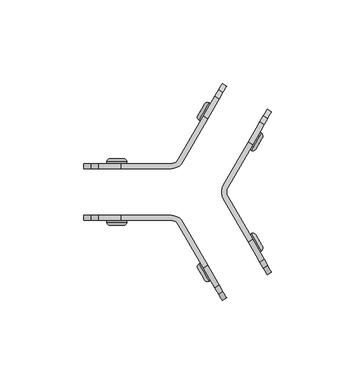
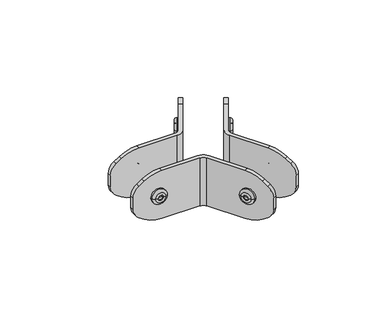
"""IFC4 building model written with IfcOpenShell, lengths in millimetres: furniture geometry, DBLTD_Sixteen3_PrivacyScreens_Artus_Bracket : 120° 3-Way Link."""

from ifc_helpers import new_model, si_unit, point, frame, origin, place, context, project, spatial, polyline, circle_curve, ellipse_curve, trimmed, source, transform, mapped, element, save
from ifc_brep_helpers import plane_surface, cylinder_surface, revolved_surface, advanced_brep


def furniture_39da6c51(model_context):
    return source(origin(), model_context, "Body", "AdvancedBrep", [
        advanced_brep(
        [(27.3537451, -795.0576652, 100.0), (26.5, -794.5647552, 100.0), (32.5, -784.1724504, 100.0), (33.3537451, -784.6653603, 100.0), (29.5, -789.3686028, 100.0), (31.2320508, -790.3686028, 100.0), (30.2320508, -792.1006536, 100.0), (32.2320508, -788.636552, 100.0), (31.0980762, -792.6006536, 100.0), (33.0980762, -789.136552, 100.0), (30.1051663, -794.3204241, 100.0), (34.0909862, -787.4167815, 100.0)],
        [
            (0, 1),
            (1, 2, circle_curve(frame((29.5, -789.3686028, 100.0), z_axis=(0.866025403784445, -0.49999999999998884, 0.0), x_axis=(0.49999999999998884, 0.866025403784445, 0.0)), 6.0)),
            (2, 3),
            (3, 0, circle_curve(frame((30.3537451, -789.8615127, 100.0), z_axis=(-0.866025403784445, 0.49999999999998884, 0.0), x_axis=(0.49999999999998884, 0.866025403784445, 0.0)), 6.0)),
            (2, 1, circle_curve(frame((29.5, -789.3686028, 100.0), z_axis=(0.866025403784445, -0.49999999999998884, 0.0), x_axis=(0.49999999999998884, 0.866025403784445, 0.0)), 6.0)),
            (0, 3, circle_curve(frame((30.3537451, -789.8615127, 100.0), z_axis=(-0.866025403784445, 0.49999999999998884, 0.0), x_axis=(0.49999999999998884, 0.866025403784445, 0.0)), 6.0)),
            (1, 4),
            (4, 2),
            (5, 6),
            (6, 7, circle_curve(frame((31.2320508, -790.3686028, 100.0), z_axis=(0.866025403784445, -0.49999999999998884, 0.0), x_axis=(0.49999999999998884, 0.866025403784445, 0.0)), 2.0)),
            (7, 5),
            (7, 6, circle_curve(frame((31.2320508, -790.3686028, 100.0), z_axis=(0.866025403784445, -0.49999999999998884, 0.0), x_axis=(0.49999999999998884, 0.866025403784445, 0.0)), 2.0)),
            (6, 8),
            (8, 9, circle_curve(frame((32.0980762, -790.8686028, 100.0), z_axis=(0.866025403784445, -0.49999999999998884, 0.0), x_axis=(0.49999999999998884, 0.866025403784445, 0.0)), 2.0)),
            (9, 7),
            (9, 8, circle_curve(frame((32.0980762, -790.8686028, 100.0), z_axis=(0.866025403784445, -0.49999999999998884, 0.0), x_axis=(0.49999999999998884, 0.866025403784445, 0.0)), 2.0)),
            (8, 10),
            (10, 11, circle_curve(frame((32.0980762, -790.8686028, 100.0), z_axis=(0.866025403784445, -0.49999999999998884, 0.0), x_axis=(0.49999999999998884, 0.866025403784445, 0.0)), 3.9858199)),
            (11, 9),
            (11, 10, circle_curve(frame((32.0980762, -790.8686028, 100.0), z_axis=(0.866025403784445, -0.49999999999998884, 0.0), x_axis=(0.49999999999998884, 0.866025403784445, 0.0)), 3.9858199)),
            (10, 0, circle_curve(frame((28.3608351, -793.313334, 100.0), z_axis=(0.0, 0.0, -1.0), x_axis=(0.4999999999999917, 0.8660254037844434, 0.0)), 2.0141801)),
            (3, 11, circle_curve(frame((32.346655, -786.4096915, 100.0), z_axis=(0.0, 0.0, -1.0), x_axis=(-0.499999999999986, -0.8660254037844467, 0.0)), 2.0141801)),
        ],
        [
            cylinder_surface(frame((30.7336307, -790.0808398, 100.0), z_axis=(0.866025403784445, -0.49999999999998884, 0.0), x_axis=(0.49999999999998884, 0.866025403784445, 0.0)), 6.0),
            plane_surface(frame((29.5, -789.3686028, 100.0), z_axis=(-0.866025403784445, 0.49999999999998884, 0.0), x_axis=(0.49999999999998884, 0.866025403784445, 0.0))),
            plane_surface(frame((31.2320508, -790.3686028, 100.0), z_axis=(0.866025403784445, -0.49999999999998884, 0.0), x_axis=(0.49999999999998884, 0.866025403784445, 0.0))),
            revolved_surface(polyline([(33.09807621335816, -789.1365519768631, 100.0), (32.23205080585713, -788.6365519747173, 100.0)]), (30.7336307, -790.0808398, 100.0), (0.866025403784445, -0.49999999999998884, 0.0)),
            plane_surface(frame((32.0980762, -790.8686028, 100.0), z_axis=(0.866025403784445, -0.49999999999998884, 0.0), x_axis=(0.49999999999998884, 0.866025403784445, 0.0))),
            revolved_surface(trimmed(ellipse_curve(frame((32.346655, -786.4096915, 100.0), z_axis=(0.0, 0.0, -1.0), x_axis=(-0.499999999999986, -0.8660254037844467, 0.0)), 2.0141801, 2.0141801), [point((33.3537451, -784.6653603, 100.0))], [point((34.0909862, -787.4167815, 100.0))], True, "CARTESIAN"), (30.7336307, -790.0808398, 100.0), (0.866025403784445, -0.49999999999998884, 0.0)),
        ],
        [
            (0, [[1, 2, 3, 4]]),
            (0, [[-3, 5, -1, 6]]),
            (1, [[7, 8, -2]]),
            (1, [[-8, -7, -5]]),
            (2, [[9, 10, 11]]),
            (2, [[-11, 12, -9]]),
            (3, [[13, 14, 15, -10]]),
            (3, [[-15, 16, -13, -12]]),
            (4, [[17, 18, 19, -14]]),
            (4, [[-19, 20, -17, -16]]),
            (5, [[21, -4, 22, -18]]),
            (5, [[-22, -6, -21, -20]]),
        ],
    ),
        advanced_brep(
        [(-2.9448637, -777.5647552, 100.0), (-3.7986088, -777.0718453, 100.0), (2.2013912, -766.6795404, 100.0), (3.0551363, -767.1724504, 100.0), (0.0551363, -772.3686028, 100.0), (-2.6769145, -773.1006536, 100.0), (-1.6769145, -771.3686028, 100.0), (-0.6769145, -769.636552, 100.0), (-3.5429399, -772.6006536, 100.0), (-1.5429399, -769.136552, 100.0), (-4.5358499, -774.3204241, 100.0), (-0.55003, -767.4167815, 100.0)],
        [
            (0, 1),
            (1, 2, circle_curve(frame((-0.7986088, -771.8756928, 100.0), z_axis=(0.8660254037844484, -0.4999999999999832, 0.0), x_axis=(0.4999999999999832, 0.8660254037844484, 0.0)), 6.0)),
            (2, 3),
            (3, 0, circle_curve(frame((0.0551363, -772.3686028, 100.0), z_axis=(-0.8660254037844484, 0.4999999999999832, 0.0), x_axis=(0.4999999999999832, 0.8660254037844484, 0.0)), 6.0)),
            (2, 1, circle_curve(frame((-0.7986088, -771.8756928, 100.0), z_axis=(0.8660254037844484, -0.4999999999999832, 0.0), x_axis=(0.4999999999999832, 0.8660254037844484, 0.0)), 6.0)),
            (0, 3, circle_curve(frame((0.0551363, -772.3686028, 100.0), z_axis=(-0.8660254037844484, 0.4999999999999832, 0.0), x_axis=(0.4999999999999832, 0.8660254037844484, 0.0)), 6.0)),
            (4, 0),
            (3, 4),
            (5, 6),
            (6, 7),
            (7, 5, circle_curve(frame((-1.6769145, -771.3686028, 100.0), z_axis=(-0.8660254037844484, 0.4999999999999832, 0.0), x_axis=(0.4999999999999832, 0.8660254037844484, 0.0)), 2.0)),
            (5, 7, circle_curve(frame((-1.6769145, -771.3686028, 100.0), z_axis=(-0.8660254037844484, 0.4999999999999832, 0.0), x_axis=(0.4999999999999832, 0.8660254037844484, 0.0)), 2.0)),
            (8, 5),
            (7, 9),
            (9, 8, circle_curve(frame((-2.5429399, -770.8686028, 100.0), z_axis=(-0.8660254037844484, 0.4999999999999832, 0.0), x_axis=(0.4999999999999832, 0.8660254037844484, 0.0)), 2.0)),
            (8, 9, circle_curve(frame((-2.5429399, -770.8686028, 100.0), z_axis=(-0.8660254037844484, 0.4999999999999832, 0.0), x_axis=(0.4999999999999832, 0.8660254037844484, 0.0)), 2.0)),
            (10, 8),
            (9, 11),
            (11, 10, circle_curve(frame((-2.5429399, -770.8686028, 100.0), z_axis=(-0.8660254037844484, 0.4999999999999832, 0.0), x_axis=(0.4999999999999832, 0.8660254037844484, 0.0)), 3.9858199)),
            (10, 11, circle_curve(frame((-2.5429399, -770.8686028, 100.0), z_axis=(-0.8660254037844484, 0.4999999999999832, 0.0), x_axis=(0.4999999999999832, 0.8660254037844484, 0.0)), 3.9858199)),
            (1, 10, circle_curve(frame((-2.7915187, -775.3275141, 100.0), z_axis=(0.0, 0.0, -1.0), x_axis=(0.49999999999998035, 0.86602540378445, 0.0)), 2.0141801)),
            (11, 2, circle_curve(frame((1.1943011, -768.4238716, 100.0), z_axis=(0.0, 0.0, -1.0), x_axis=(-0.499999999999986, -0.8660254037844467, 0.0)), 2.0141801)),
        ],
        [
            cylinder_surface(frame((-1.1784944, -771.6563658, 100.0), z_axis=(0.8660254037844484, -0.4999999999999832, 0.0), x_axis=(0.4999999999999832, 0.8660254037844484, 0.0)), 6.0),
            plane_surface(frame((0.0551363, -772.3686028, 100.0), z_axis=(0.8660254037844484, -0.4999999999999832, 0.0), x_axis=(0.4999999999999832, 0.8660254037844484, 0.0))),
            plane_surface(frame((-1.6769145, -771.3686028, 100.0), z_axis=(-0.8660254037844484, 0.4999999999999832, 0.0), x_axis=(0.4999999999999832, 0.8660254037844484, 0.0))),
            revolved_surface(polyline([(-0.6769145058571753, -769.6365520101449, 100.0), (-1.54293991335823, -769.1365520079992, 100.0)]), (-1.1784944, -771.6563658, 100.0), (0.8660254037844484, -0.4999999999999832, 0.0)),
            plane_surface(frame((-2.5429399, -770.8686028, 100.0), z_axis=(-0.8660254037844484, 0.4999999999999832, 0.0), x_axis=(0.4999999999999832, 0.8660254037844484, 0.0))),
            revolved_surface(trimmed(ellipse_curve(frame((1.1943011, -768.4238716, 100.0), z_axis=(0.0, 0.0, -1.0), x_axis=(-0.499999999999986, -0.8660254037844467, 0.0)), 2.0141801, 2.0141801), [point((-0.55003, -767.4167815, 100.0))], [point((2.2013912, -766.6795404, 100.0))], True, "CARTESIAN"), (-1.1784944, -771.6563658, 100.0), (0.8660254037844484, -0.4999999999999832, 0.0)),
        ],
        [
            (0, [[1, 2, 3, 4]]),
            (0, [[-3, 5, -1, 6]]),
            (1, [[7, -4, 8]]),
            (1, [[-8, -6, -7]]),
            (2, [[9, 10, 11]]),
            (2, [[-10, -9, 12]]),
            (3, [[13, -11, 14, 15]]),
            (3, [[-14, -12, -13, 16]]),
            (4, [[17, -15, 18, 19]]),
            (4, [[-18, -16, -17, 20]]),
            (5, [[21, -19, 22, -2]]),
            (5, [[-22, -20, -21, -5]]),
        ],
    ),
        advanced_brep(
        [(26.5, -845.4352448, 100.0), (27.3537451, -844.9423348, 100.0), (33.3537451, -855.3346397, 100.0), (32.5, -855.8275496, 100.0), (29.5, -850.6313972, 100.0), (30.2320508, -847.8993464, 100.0), (31.2320508, -849.6313972, 100.0), (32.2320508, -851.363448, 100.0), (31.0980762, -847.3993464, 100.0), (33.0980762, -850.863448, 100.0), (30.1051663, -845.6795759, 100.0), (34.0909862, -852.5832185, 100.0)],
        [
            (0, 1),
            (1, 2, circle_curve(frame((30.3537451, -850.1384873, 100.0), z_axis=(-0.866025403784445, -0.49999999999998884, 0.0), x_axis=(0.49999999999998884, -0.866025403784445, 0.0)), 6.0)),
            (2, 3),
            (3, 0, circle_curve(frame((29.5, -850.6313972, 100.0), z_axis=(0.866025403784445, 0.49999999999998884, 0.0), x_axis=(0.49999999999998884, -0.866025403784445, 0.0)), 6.0)),
            (2, 1, circle_curve(frame((30.3537451, -850.1384873, 100.0), z_axis=(-0.866025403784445, -0.49999999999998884, 0.0), x_axis=(0.49999999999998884, -0.866025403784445, 0.0)), 6.0)),
            (0, 3, circle_curve(frame((29.5, -850.6313972, 100.0), z_axis=(0.866025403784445, 0.49999999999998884, 0.0), x_axis=(0.49999999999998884, -0.866025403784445, 0.0)), 6.0)),
            (4, 0),
            (3, 4),
            (5, 6),
            (6, 7),
            (7, 5, circle_curve(frame((31.2320508, -849.6313972, 100.0), z_axis=(0.866025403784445, 0.49999999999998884, 0.0), x_axis=(0.49999999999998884, -0.866025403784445, 0.0)), 2.0)),
            (5, 7, circle_curve(frame((31.2320508, -849.6313972, 100.0), z_axis=(0.866025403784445, 0.49999999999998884, 0.0), x_axis=(0.49999999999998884, -0.866025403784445, 0.0)), 2.0)),
            (8, 5),
            (7, 9),
            (9, 8, circle_curve(frame((32.0980762, -849.1313972, 100.0), z_axis=(0.866025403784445, 0.49999999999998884, 0.0), x_axis=(0.49999999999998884, -0.866025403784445, 0.0)), 2.0)),
            (8, 9, circle_curve(frame((32.0980762, -849.1313972, 100.0), z_axis=(0.866025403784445, 0.49999999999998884, 0.0), x_axis=(0.49999999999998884, -0.866025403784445, 0.0)), 2.0)),
            (10, 8),
            (9, 11),
            (11, 10, circle_curve(frame((32.0980762, -849.1313972, 100.0), z_axis=(0.866025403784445, 0.49999999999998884, 0.0), x_axis=(0.49999999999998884, -0.866025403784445, 0.0)), 3.9858199)),
            (10, 11, circle_curve(frame((32.0980762, -849.1313972, 100.0), z_axis=(0.866025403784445, 0.49999999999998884, 0.0), x_axis=(0.49999999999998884, -0.866025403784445, 0.0)), 3.9858199)),
            (1, 10, circle_curve(frame((28.3608351, -846.686666, 100.0), z_axis=(0.0, 0.0, -1.0), x_axis=(0.4999999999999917, -0.8660254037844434, 0.0)), 2.0141801)),
            (11, 2, circle_curve(frame((32.346655, -853.5903085, 100.0), z_axis=(0.0, 0.0, -1.0), x_axis=(-0.499999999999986, 0.8660254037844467, 0.0)), 2.0141801)),
        ],
        [
            cylinder_surface(frame((30.7336307, -849.9191602, 100.0), z_axis=(-0.866025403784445, -0.49999999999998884, 0.0), x_axis=(0.49999999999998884, -0.866025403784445, 0.0)), 6.0),
            plane_surface(frame((29.5, -850.6313972, 100.0), z_axis=(-0.866025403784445, -0.49999999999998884, 0.0), x_axis=(0.49999999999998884, -0.866025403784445, 0.0))),
            plane_surface(frame((31.2320508, -849.6313972, 100.0), z_axis=(0.866025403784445, 0.49999999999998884, 0.0), x_axis=(0.49999999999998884, -0.866025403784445, 0.0))),
            revolved_surface(polyline([(32.23205080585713, -851.3634480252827, 100.0), (33.09807621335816, -850.8634480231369, 100.0)]), (30.7336307, -849.9191602, 100.0), (-0.866025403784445, -0.49999999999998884, 0.0)),
            plane_surface(frame((32.0980762, -849.1313972, 100.0), z_axis=(0.866025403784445, 0.49999999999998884, 0.0), x_axis=(0.49999999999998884, -0.866025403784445, 0.0))),
            revolved_surface(trimmed(ellipse_curve(frame((32.346655, -853.5903085, 100.0), z_axis=(0.0, 0.0, -1.0), x_axis=(-0.499999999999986, 0.8660254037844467, 0.0)), 2.0141801, 2.0141801), [point((34.0909862, -852.5832185, 100.0))], [point((33.3537451, -855.3346397, 100.0))], True, "CARTESIAN"), (30.7336307, -849.9191602, 100.0), (-0.866025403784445, -0.49999999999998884, 0.0)),
        ],
        [
            (0, [[1, 2, 3, 4]]),
            (0, [[-3, 5, -1, 6]]),
            (1, [[7, -4, 8]]),
            (1, [[-8, -6, -7]]),
            (2, [[9, 10, 11]]),
            (2, [[-10, -9, 12]]),
            (3, [[13, -11, 14, 15]]),
            (3, [[-14, -12, -13, 16]]),
            (4, [[17, -15, 18, 19]]),
            (4, [[-18, -16, -17, 20]]),
            (5, [[21, -19, 22, -2]]),
            (5, [[-22, -20, -21, -5]]),
        ],
    ),
        advanced_brep(
        [(-3.7986088, -862.9281547, 100.0), (-2.9448637, -862.4352448, 100.0), (3.0551363, -872.8275496, 100.0), (2.2013912, -873.3204596, 100.0), (0.0551363, -867.6313972, 100.0), (-1.6769145, -868.6313972, 100.0), (-2.6769145, -866.8993464, 100.0), (-0.6769145, -870.363448, 100.0), (-3.5429399, -867.3993464, 100.0), (-1.5429399, -870.863448, 100.0), (-4.5358499, -865.6795759, 100.0), (-0.55003, -872.5832185, 100.0)],
        [
            (0, 1),
            (1, 2, circle_curve(frame((0.0551363, -867.6313972, 100.0), z_axis=(-0.8660254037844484, -0.4999999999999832, 0.0), x_axis=(0.4999999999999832, -0.8660254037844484, 0.0)), 6.0)),
            (2, 3),
            (3, 0, circle_curve(frame((-0.7986088, -868.1243072, 100.0), z_axis=(0.8660254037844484, 0.4999999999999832, 0.0), x_axis=(0.4999999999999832, -0.8660254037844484, 0.0)), 6.0)),
            (2, 1, circle_curve(frame((0.0551363, -867.6313972, 100.0), z_axis=(-0.8660254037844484, -0.4999999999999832, 0.0), x_axis=(0.4999999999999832, -0.8660254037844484, 0.0)), 6.0)),
            (0, 3, circle_curve(frame((-0.7986088, -868.1243072, 100.0), z_axis=(0.8660254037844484, 0.4999999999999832, 0.0), x_axis=(0.4999999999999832, -0.8660254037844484, 0.0)), 6.0)),
            (1, 4),
            (4, 2),
            (5, 6),
            (6, 7, circle_curve(frame((-1.6769145, -868.6313972, 100.0), z_axis=(-0.8660254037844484, -0.4999999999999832, 0.0), x_axis=(0.4999999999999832, -0.8660254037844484, 0.0)), 2.0)),
            (7, 5),
            (7, 6, circle_curve(frame((-1.6769145, -868.6313972, 100.0), z_axis=(-0.8660254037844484, -0.4999999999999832, 0.0), x_axis=(0.4999999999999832, -0.8660254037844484, 0.0)), 2.0)),
            (6, 8),
            (8, 9, circle_curve(frame((-2.5429399, -869.1313972, 100.0), z_axis=(-0.8660254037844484, -0.4999999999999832, 0.0), x_axis=(0.4999999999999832, -0.8660254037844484, 0.0)), 2.0)),
            (9, 7),
            (9, 8, circle_curve(frame((-2.5429399, -869.1313972, 100.0), z_axis=(-0.8660254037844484, -0.4999999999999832, 0.0), x_axis=(0.4999999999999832, -0.8660254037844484, 0.0)), 2.0)),
            (8, 10),
            (10, 11, circle_curve(frame((-2.5429399, -869.1313972, 100.0), z_axis=(-0.8660254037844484, -0.4999999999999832, 0.0), x_axis=(0.4999999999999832, -0.8660254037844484, 0.0)), 3.9858199)),
            (11, 9),
            (11, 10, circle_curve(frame((-2.5429399, -869.1313972, 100.0), z_axis=(-0.8660254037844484, -0.4999999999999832, 0.0), x_axis=(0.4999999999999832, -0.8660254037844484, 0.0)), 3.9858199)),
            (10, 0, circle_curve(frame((-2.7915187, -864.6724859, 100.0), z_axis=(0.0, 0.0, -1.0), x_axis=(0.49999999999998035, -0.86602540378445, 0.0)), 2.0141801)),
            (3, 11, circle_curve(frame((1.1943011, -871.5761284, 100.0), z_axis=(0.0, 0.0, -1.0), x_axis=(-0.499999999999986, 0.8660254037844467, 0.0)), 2.0141801)),
        ],
        [
            cylinder_surface(frame((-1.1784944, -868.3436342, 100.0), z_axis=(-0.8660254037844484, -0.4999999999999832, 0.0), x_axis=(0.4999999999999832, -0.8660254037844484, 0.0)), 6.0),
            plane_surface(frame((0.0551363, -867.6313972, 100.0), z_axis=(0.8660254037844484, 0.4999999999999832, 0.0), x_axis=(0.4999999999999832, -0.8660254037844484, 0.0))),
            plane_surface(frame((-1.6769145, -868.6313972, 100.0), z_axis=(-0.8660254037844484, -0.4999999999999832, 0.0), x_axis=(0.4999999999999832, -0.8660254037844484, 0.0))),
            revolved_surface(polyline([(-1.54293991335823, -870.8634479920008, 100.0), (-0.6769145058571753, -870.3634479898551, 100.0)]), (-1.1784944, -868.3436342, 100.0), (-0.8660254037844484, -0.4999999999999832, 0.0)),
            plane_surface(frame((-2.5429399, -869.1313972, 100.0), z_axis=(-0.8660254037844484, -0.4999999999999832, 0.0), x_axis=(0.4999999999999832, -0.8660254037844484, 0.0))),
            revolved_surface(trimmed(ellipse_curve(frame((1.1943011, -871.5761284, 100.0), z_axis=(0.0, 0.0, -1.0), x_axis=(-0.499999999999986, 0.8660254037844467, 0.0)), 2.0141801, 2.0141801), [point((2.2013912, -873.3204596, 100.0))], [point((-0.55003, -872.5832185, 100.0))], True, "CARTESIAN"), (-1.1784944, -868.3436342, 100.0), (-0.8660254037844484, -0.4999999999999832, 0.0)),
        ],
        [
            (0, [[1, 2, 3, 4]]),
            (0, [[-3, 5, -1, 6]]),
            (1, [[7, 8, -2]]),
            (1, [[-8, -7, -5]]),
            (2, [[9, 10, 11]]),
            (2, [[-11, 12, -9]]),
            (3, [[13, 14, 15, -10]]),
            (3, [[-15, 16, -13, -12]]),
            (4, [[17, 18, 19, -14]]),
            (4, [[-19, 20, -17, -16]]),
            (5, [[21, -4, 22, -18]]),
            (5, [[-22, -6, -21, -20]]),
        ],
    ),
        advanced_brep(
        [(-47.0, -802.0141801, 100.0), (-47.0, -803.0, 100.0), (-59.0, -803.0, 100.0), (-59.0, -802.0141801, 100.0), (-53.0, -803.0, 100.0), (-53.0, -801.0, 100.0), (-51.0, -801.0, 100.0), (-55.0, -801.0, 100.0), (-51.0, -800.0, 100.0), (-55.0, -800.0, 100.0), (-49.0141801, -800.0, 100.0), (-56.9858199, -800.0, 100.0)],
        [
            (0, 1),
            (1, 2, circle_curve(frame((-53.0, -803.0, 100.0), z_axis=(0.0, 1.0, 0.0), x_axis=(-1.0, 0.0, 0.0)), 6.0)),
            (2, 3),
            (3, 0, circle_curve(frame((-53.0, -802.0141801, 100.0), z_axis=(0.0, -1.0, 0.0), x_axis=(-1.0, 0.0, 0.0)), 6.0)),
            (2, 1, circle_curve(frame((-53.0, -803.0, 100.0), z_axis=(0.0, 1.0, 0.0), x_axis=(-1.0, 0.0, 0.0)), 6.0)),
            (0, 3, circle_curve(frame((-53.0, -802.0141801, 100.0), z_axis=(0.0, -1.0, 0.0), x_axis=(-1.0, 0.0, 0.0)), 6.0)),
            (1, 4),
            (4, 2),
            (5, 6),
            (6, 7, circle_curve(frame((-53.0, -801.0, 100.0), z_axis=(0.0, 1.0, 0.0), x_axis=(-1.0, 0.0, 0.0)), 2.0)),
            (7, 5),
            (7, 6, circle_curve(frame((-53.0, -801.0, 100.0), z_axis=(0.0, 1.0, 0.0), x_axis=(-1.0, 0.0, 0.0)), 2.0)),
            (6, 8),
            (8, 9, circle_curve(frame((-53.0, -800.0, 100.0), z_axis=(0.0, 1.0, 0.0), x_axis=(-1.0, 0.0, 0.0)), 2.0)),
            (9, 7),
            (9, 8, circle_curve(frame((-53.0, -800.0, 100.0), z_axis=(0.0, 1.0, 0.0), x_axis=(-1.0, 0.0, 0.0)), 2.0)),
            (8, 10),
            (10, 11, circle_curve(frame((-53.0, -800.0, 100.0), z_axis=(0.0, 1.0, 0.0), x_axis=(-1.0, 0.0, 0.0)), 3.9858199)),
            (11, 9),
            (11, 10, circle_curve(frame((-53.0, -800.0, 100.0), z_axis=(0.0, 1.0, 0.0), x_axis=(-1.0, 0.0, 0.0)), 3.9858199)),
            (10, 0, circle_curve(frame((-49.0141801, -802.0141801, 100.0), z_axis=(0.0, 0.0, -1.0), x_axis=(-1.0, 0.0, 0.0)), 2.0141801)),
            (3, 11, circle_curve(frame((-56.9858199, -802.0141801, 100.0), z_axis=(0.0, 0.0, -1.0), x_axis=(1.0, 0.0, 0.0)), 2.0141801)),
        ],
        [
            cylinder_surface(frame((-53.0, -801.575526, 100.0), z_axis=(0.0, 1.0, 0.0), x_axis=(-1.0, 0.0, 0.0)), 6.0),
            plane_surface(frame((-53.0, -803.0, 100.0), z_axis=(0.0, -1.0, 0.0), x_axis=(-1.0, 0.0, 0.0))),
            plane_surface(frame((-53.0, -801.0, 100.0), z_axis=(0.0, 1.0, 0.0), x_axis=(-1.0, 0.0, 0.0))),
            revolved_surface(polyline([(-55.0, -800.0, 100.0), (-55.0, -801.0, 100.0)]), (-53.0, -801.575526, 100.0), (0.0, 1.0, 0.0)),
            plane_surface(frame((-53.0, -800.0, 100.0), z_axis=(0.0, 1.0, 0.0), x_axis=(-1.0, 0.0, 0.0))),
            revolved_surface(trimmed(ellipse_curve(frame((-56.9858199, -802.0141801, 100.0), z_axis=(0.0, 0.0, -1.0), x_axis=(1.0, 0.0, 0.0)), 2.0141801, 2.0141801), [point((-59.0, -802.0141801, 100.0))], [point((-56.9858199, -800.0, 100.0))], True, "CARTESIAN"), (-53.0, -801.575526, 100.0), (0.0, 1.0, 0.0)),
        ],
        [
            (0, [[1, 2, 3, 4]]),
            (0, [[-3, 5, -1, 6]]),
            (1, [[7, 8, -2]]),
            (1, [[-8, -7, -5]]),
            (2, [[9, 10, 11]]),
            (2, [[-11, 12, -9]]),
            (3, [[13, 14, 15, -10]]),
            (3, [[-15, 16, -13, -12]]),
            (4, [[17, 18, 19, -14]]),
            (4, [[-19, 20, -17, -16]]),
            (5, [[21, -4, 22, -18]]),
            (5, [[-22, -6, -21, -20]]),
        ],
    ),
        advanced_brep(
        [(-47.0, -837.0, 100.0), (-47.0, -837.9858199, 100.0), (-59.0, -837.9858199, 100.0), (-59.0, -837.0, 100.0), (-53.0, -837.0, 100.0), (-51.0, -839.0, 100.0), (-53.0, -839.0, 100.0), (-55.0, -839.0, 100.0), (-51.0, -840.0, 100.0), (-55.0, -840.0, 100.0), (-49.0141801, -840.0, 100.0), (-56.9858199, -840.0, 100.0)],
        [
            (0, 1),
            (1, 2, circle_curve(frame((-53.0, -837.9858199, 100.0), z_axis=(0.0, 1.0, 0.0), x_axis=(-1.0, 0.0, 0.0)), 6.0)),
            (2, 3),
            (3, 0, circle_curve(frame((-53.0, -837.0, 100.0), z_axis=(0.0, -1.0, 0.0), x_axis=(-1.0, 0.0, 0.0)), 6.0)),
            (2, 1, circle_curve(frame((-53.0, -837.9858199, 100.0), z_axis=(0.0, 1.0, 0.0), x_axis=(-1.0, 0.0, 0.0)), 6.0)),
            (0, 3, circle_curve(frame((-53.0, -837.0, 100.0), z_axis=(0.0, -1.0, 0.0), x_axis=(-1.0, 0.0, 0.0)), 6.0)),
            (4, 0),
            (3, 4),
            (5, 6),
            (6, 7),
            (7, 5, circle_curve(frame((-53.0, -839.0, 100.0), z_axis=(0.0, -1.0, 0.0), x_axis=(-1.0, 0.0, 0.0)), 2.0)),
            (5, 7, circle_curve(frame((-53.0, -839.0, 100.0), z_axis=(0.0, -1.0, 0.0), x_axis=(-1.0, 0.0, 0.0)), 2.0)),
            (8, 5),
            (7, 9),
            (9, 8, circle_curve(frame((-53.0, -840.0, 100.0), z_axis=(0.0, -1.0, 0.0), x_axis=(-1.0, 0.0, 0.0)), 2.0)),
            (8, 9, circle_curve(frame((-53.0, -840.0, 100.0), z_axis=(0.0, -1.0, 0.0), x_axis=(-1.0, 0.0, 0.0)), 2.0)),
            (10, 8),
            (9, 11),
            (11, 10, circle_curve(frame((-53.0, -840.0, 100.0), z_axis=(0.0, -1.0, 0.0), x_axis=(-1.0, 0.0, 0.0)), 3.9858199)),
            (10, 11, circle_curve(frame((-53.0, -840.0, 100.0), z_axis=(0.0, -1.0, 0.0), x_axis=(-1.0, 0.0, 0.0)), 3.9858199)),
            (1, 10, circle_curve(frame((-49.0141801, -837.9858199, 100.0), z_axis=(0.0, 0.0, -1.0), x_axis=(-1.0, 0.0, 0.0)), 2.0141801)),
            (11, 2, circle_curve(frame((-56.9858199, -837.9858199, 100.0), z_axis=(0.0, 0.0, -1.0), x_axis=(1.0, 0.0, 0.0)), 2.0141801)),
        ],
        [
            cylinder_surface(frame((-53.0, -838.424474, 100.0), z_axis=(0.0, 1.0, 0.0), x_axis=(-1.0, 0.0, 0.0)), 6.0),
            plane_surface(frame((-53.0, -837.0, 100.0), z_axis=(0.0, 1.0, 0.0), x_axis=(-1.0, 0.0, 0.0))),
            plane_surface(frame((-53.0, -839.0, 100.0), z_axis=(0.0, -1.0, 0.0), x_axis=(-1.0, 0.0, 0.0))),
            revolved_surface(polyline([(-55.0, -839.0, 100.0), (-55.0, -840.0, 100.0)]), (-53.0, -838.424474, 100.0), (0.0, 1.0, 0.0)),
            plane_surface(frame((-53.0, -840.0, 100.0), z_axis=(0.0, -1.0, 0.0), x_axis=(-1.0, 0.0, 0.0))),
            revolved_surface(trimmed(ellipse_curve(frame((-56.9858199, -837.9858199, 100.0), z_axis=(0.0, 0.0, -1.0), x_axis=(1.0, 0.0, 0.0)), 2.0141801, 2.0141801), [point((-56.9858199, -840.0, 100.0))], [point((-59.0, -837.9858199, 100.0))], True, "CARTESIAN"), (-53.0, -838.424474, 100.0), (0.0, 1.0, 0.0)),
        ],
        [
            (0, [[1, 2, 3, 4]]),
            (0, [[-3, 5, -1, 6]]),
            (1, [[7, -4, 8]]),
            (1, [[-8, -6, -7]]),
            (2, [[9, 10, 11]]),
            (2, [[-10, -9, 12]]),
            (3, [[13, -11, 14, 15]]),
            (3, [[-14, -12, -13, 16]]),
            (4, [[17, -15, 18, 19]]),
            (4, [[-18, -16, -17, 20]]),
            (5, [[21, -19, 22, -2]]),
            (5, [[-22, -20, -21, -5]]),
        ],
    ),
        advanced_brep(
        [(10.660254, -824.0, 120.0), (25.6172283, -849.9062394, 120.0), (28.2153045, -848.4062394, 120.0), (13.2583302, -822.5, 120.0), (13.2583302, -817.5, 120.0), (28.2153045, -791.5937606, 120.0), (25.6172283, -790.0937606, 120.0), (10.660254, -816.0, 120.0), (13.2583302, -822.5, 80.0), (28.2153045, -848.4062394, 80.0), (25.6172283, -849.9062394, 80.0), (10.660254, -824.0, 80.0), (10.660254, -816.0, 80.0), (25.6172283, -790.0937606, 80.0), (28.2153045, -791.5937606, 80.0), (13.2583302, -817.5, 80.0), (35.149057, -860.4158509, 115.8012574), (37.273501, -864.0954959, 112.9686654), (39.5, -867.9519053, 104.6481624), (39.5, -867.9519053, 95.3518376), (37.273501, -864.0954959, 87.0313346), (35.149057, -860.4158509, 84.1987426), (36.9019238, -869.4519053, 104.6481624), (36.9019238, -869.4519053, 95.3518376), (32.5509808, -861.9158509, 84.1987426), (34.6754248, -865.5954959, 87.0313346), (34.6754248, -865.5954959, 112.9686654), (32.5509808, -861.9158509, 115.8012574), (32.5509808, -778.0841491, 115.8012574), (34.6754248, -774.4045041, 112.9686654), (36.9019238, -770.5480947, 104.6481624), (36.9019238, -770.5480947, 95.3518376), (34.6754248, -774.4045041, 87.0313346), (32.5509808, -778.0841491, 84.1987426), (39.5, -772.0480947, 104.6481624), (39.5, -772.0480947, 95.3518376), (35.149057, -779.5841491, 84.1987426), (37.273501, -775.9045041, 87.0313346), (37.273501, -775.9045041, 112.9686654), (35.149057, -779.5841491, 115.8012574)],
        [
            (0, 1),
            (1, 2),
            (2, 3),
            (3, 4, circle_curve(frame((17.5884573, -820.0, 120.0), z_axis=(0.0, 0.0, -1.0), x_axis=(-0.5000000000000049, 0.8660254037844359, 0.0)), 5.0)),
            (4, 5),
            (5, 6),
            (6, 7),
            (7, 0, circle_curve(frame((17.5884573, -820.0, 120.0), z_axis=(0.0, 0.0, 1.0), x_axis=(-0.5000000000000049, 0.8660254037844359, 0.0)), 8.0)),
            (8, 9),
            (9, 10),
            (10, 11),
            (11, 12, circle_curve(frame((17.5884573, -820.0, 80.0), z_axis=(0.0, 0.0, -1.0), x_axis=(-0.5000000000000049, 0.8660254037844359, 0.0)), 8.0)),
            (12, 13),
            (13, 14),
            (14, 15),
            (15, 8, circle_curve(frame((17.5884573, -820.0, 80.0), z_axis=(0.0, 0.0, 1.0), x_axis=(-0.5000000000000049, 0.8660254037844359, 0.0)), 5.0)),
            (2, 16, circle_curve(frame((28.2153045, -848.4062394, 95.0), z_axis=(0.8660254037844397, 0.4999999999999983, 0.0), x_axis=(-0.4999999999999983, 0.8660254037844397, 0.0)), 25.0)),
            (16, 17),
            (17, 18, circle_curve(frame((34.5, -859.2916512, 104.6481624), z_axis=(0.8660254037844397, 0.4999999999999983, 0.0), x_axis=(-0.4999999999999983, 0.8660254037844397, 0.0)), 10.0)),
            (18, 19),
            (19, 20, circle_curve(frame((34.5, -859.2916512, 95.3518376), z_axis=(0.8660254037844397, 0.4999999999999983, 0.0), x_axis=(-0.4999999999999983, 0.8660254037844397, 0.0)), 10.0)),
            (20, 21),
            (21, 9, circle_curve(frame((28.2153045, -848.4062394, 105.0), z_axis=(0.8660254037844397, 0.4999999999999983, 0.0), x_axis=(-0.4999999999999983, 0.8660254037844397, 0.0)), 25.0)),
            (8, 3),
            (18, 22),
            (22, 23),
            (23, 19),
            (10, 24, circle_curve(frame((25.6172283, -849.9062394, 105.0), z_axis=(-0.8660254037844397, -0.4999999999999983, 0.0), x_axis=(-0.4999999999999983, 0.8660254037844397, 0.0)), 25.0)),
            (24, 25),
            (25, 23, circle_curve(frame((31.9019238, -860.7916512, 95.3518376), z_axis=(-0.8660254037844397, -0.4999999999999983, 0.0), x_axis=(-0.4999999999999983, 0.8660254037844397, 0.0)), 10.0)),
            (22, 26, circle_curve(frame((31.9019238, -860.7916512, 104.6481624), z_axis=(-0.8660254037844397, -0.4999999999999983, 0.0), x_axis=(-0.4999999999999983, 0.8660254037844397, 0.0)), 10.0)),
            (26, 27),
            (27, 1, circle_curve(frame((25.6172283, -849.9062394, 95.0), z_axis=(-0.8660254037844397, -0.4999999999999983, 0.0), x_axis=(-0.4999999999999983, 0.8660254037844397, 0.0)), 25.0)),
            (0, 11),
            (7, 12),
            (6, 28, circle_curve(frame((25.6172283, -790.0937606, 95.0), z_axis=(-0.8660254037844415, 0.49999999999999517, 0.0), x_axis=(-0.49999999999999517, -0.8660254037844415, 0.0)), 25.0)),
            (28, 29),
            (29, 30, circle_curve(frame((31.9019238, -779.2083488, 104.6481624), z_axis=(-0.8660254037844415, 0.49999999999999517, 0.0), x_axis=(-0.49999999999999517, -0.8660254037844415, 0.0)), 10.0)),
            (30, 31),
            (31, 32, circle_curve(frame((31.9019238, -779.2083488, 95.3518376), z_axis=(-0.8660254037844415, 0.49999999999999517, 0.0), x_axis=(-0.49999999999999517, -0.8660254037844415, 0.0)), 10.0)),
            (32, 33),
            (33, 13, circle_curve(frame((25.6172283, -790.0937606, 105.0), z_axis=(-0.8660254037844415, 0.49999999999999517, 0.0), x_axis=(-0.49999999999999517, -0.8660254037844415, 0.0)), 25.0)),
            (30, 34),
            (34, 35),
            (35, 31),
            (14, 36, circle_curve(frame((28.2153045, -791.5937606, 105.0), z_axis=(0.8660254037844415, -0.49999999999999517, 0.0), x_axis=(-0.49999999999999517, -0.8660254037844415, 0.0)), 25.0)),
            (36, 37),
            (37, 35, circle_curve(frame((34.5, -780.7083488, 95.3518376), z_axis=(0.8660254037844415, -0.49999999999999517, 0.0), x_axis=(-0.49999999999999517, -0.8660254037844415, 0.0)), 10.0)),
            (34, 38, circle_curve(frame((34.5, -780.7083488, 104.6481624), z_axis=(0.8660254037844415, -0.49999999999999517, 0.0), x_axis=(-0.49999999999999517, -0.8660254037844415, 0.0)), 10.0)),
            (38, 39),
            (39, 5, circle_curve(frame((28.2153045, -791.5937606, 95.0), z_axis=(0.8660254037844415, -0.49999999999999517, 0.0), x_axis=(-0.49999999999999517, -0.8660254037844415, 0.0)), 25.0)),
            (4, 15),
            (29, 38),
            (28, 39),
            (33, 36),
            (32, 37),
            (17, 26),
            (16, 27),
            (21, 24),
            (20, 25),
        ],
        [
            plane_surface(frame((39.5, -867.9519053, 120.0), z_axis=(0.0, 0.0, 1.0), x_axis=(0.5000000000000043, -0.8660254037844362, 0.0))),
            plane_surface(frame((39.5, -867.9519053, 80.0), z_axis=(0.0, 0.0, -1.0), x_axis=(-0.5000000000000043, 0.8660254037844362, 0.0))),
            plane_surface(frame((13.2583302, -822.5, 120.0), z_axis=(0.8660254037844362, 0.5000000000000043, 0.0), x_axis=(0.0, 0.0, -1.0))),
            plane_surface(frame((39.5, -867.9519053, 120.0), z_axis=(0.5000000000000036, -0.8660254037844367, 0.0), x_axis=(0.0, 0.0, -1.0))),
            plane_surface(frame((36.9019238, -869.4519053, 120.0), z_axis=(-0.8660254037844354, -0.5000000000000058, 0.0), x_axis=(0.0, 0.0, -1.0))),
            cylinder_surface(frame((17.5884573, -820.0, 80.0), z_axis=(0.0, 0.0, 1.0000000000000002), x_axis=(-0.5000000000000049, 0.8660254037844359, 0.0)), 8.0),
            plane_surface(frame((10.660254, -816.0, 120.0), z_axis=(-0.86602540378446, 0.4999999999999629, 0.0), x_axis=(0.0, 0.0, -1.0))),
            plane_surface(frame((36.9019238, -770.5480947, 120.0), z_axis=(0.49999999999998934, 0.8660254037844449, 0.0), x_axis=(0.0, 0.0, -1.0))),
            plane_surface(frame((39.5, -772.0480947, 120.0), z_axis=(0.8660254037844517, -0.4999999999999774, 0.0), x_axis=(0.0, 0.0, -1.0))),
            revolved_surface(polyline([(15.088457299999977, -815.6698729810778, 80.0), (15.088457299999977, -815.6698729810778, 120.00000000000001)]), (17.5884573, -820.0, 80.0), (0.0, 0.0, -1.0000000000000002)),
            cylinder_surface(frame((5.0551363, -763.7083488, 104.6481624), z_axis=(-0.8660254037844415, 0.49999999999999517, 0.0), x_axis=(-0.49999999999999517, -0.8660254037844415, 0.0)), 10.0),
            plane_surface(frame((37.273501, -775.9045041, 112.9686654), z_axis=(0.27735009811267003, 0.48038446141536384, 0.8320502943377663), x_axis=(-0.8660254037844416, 0.49999999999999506, 0.0))),
            cylinder_surface(frame((-1.2295592, -774.5937606, 95.0), z_axis=(-0.8660254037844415, 0.49999999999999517, 0.0), x_axis=(-0.49999999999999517, -0.8660254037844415, 0.0)), 25.0),
            cylinder_surface(frame((-1.2295592, -774.5937606, 105.0), z_axis=(-0.8660254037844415, 0.49999999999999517, 0.0), x_axis=(-0.49999999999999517, -0.8660254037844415, 0.0)), 25.0),
            plane_surface(frame((35.149057, -779.5841491, 84.1987426), z_axis=(0.277350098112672, 0.4803844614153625, -0.8320502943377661), x_axis=(-0.8660254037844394, 0.4999999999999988, 0.0))),
            cylinder_surface(frame((5.0551363, -763.7083488, 95.3518376), z_axis=(-0.8660254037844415, 0.49999999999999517, 0.0), x_axis=(-0.49999999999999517, -0.8660254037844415, 0.0)), 10.0),
            cylinder_surface(frame((5.0551363, -876.2916512, 104.6481624), z_axis=(-0.8660254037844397, -0.4999999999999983, 0.0), x_axis=(-0.4999999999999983, 0.8660254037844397, 0.0)), 10.0),
            plane_surface(frame((35.149057, -860.4158509, 115.8012574), z_axis=(0.27735009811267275, -0.48038446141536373, 0.8320502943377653), x_axis=(-0.8660254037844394, -0.49999999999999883, 0.0))),
            cylinder_surface(frame((-1.2295592, -865.4062394, 95.0), z_axis=(-0.8660254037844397, -0.4999999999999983, 0.0), x_axis=(-0.4999999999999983, 0.8660254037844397, 0.0)), 25.0),
            cylinder_surface(frame((-1.2295592, -865.4062394, 105.0), z_axis=(-0.8660254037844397, -0.4999999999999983, 0.0), x_axis=(-0.4999999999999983, 0.8660254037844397, 0.0)), 25.0),
            plane_surface(frame((37.273501, -864.0954959, 87.0313346), z_axis=(0.27735009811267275, -0.48038446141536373, -0.8320502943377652), x_axis=(-0.8660254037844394, -0.4999999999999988, 0.0))),
            cylinder_surface(frame((5.0551363, -876.2916512, 95.3518376), z_axis=(-0.8660254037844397, -0.4999999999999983, 0.0), x_axis=(-0.4999999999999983, 0.8660254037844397, 0.0)), 10.0),
        ],
        [
            (0, [[1, 2, 3, 4, 5, 6, 7, 8]]),
            (1, [[9, 10, 11, 12, 13, 14, 15, 16]]),
            (2, [[-3, 17, 18, 19, 20, 21, 22, 23, -9, 24]]),
            (3, [[25, 26, 27, -20]]),
            (4, [[-11, 28, 29, 30, -26, 31, 32, 33, -1, 34]]),
            (5, [[35, -12, -34, -8]]),
            (6, [[-7, 36, 37, 38, 39, 40, 41, 42, -13, -35]]),
            (7, [[43, 44, 45, -39]]),
            (8, [[-15, 46, 47, 48, -44, 49, 50, 51, -5, 52]]),
            (9, [[-24, -16, -52, -4]]),
            (10, [[-49, -43, -38, 53]]),
            (11, [[-37, 54, -50, -53]]),
            (12, [[-36, -6, -51, -54]]),
            (13, [[-46, -14, -42, 55]]),
            (14, [[-41, 56, -47, -55]]),
            (15, [[-40, -45, -48, -56]]),
            (16, [[-31, -25, -19, 57]]),
            (17, [[-18, 58, -32, -57]]),
            (18, [[-17, -2, -33, -58]]),
            (19, [[-28, -10, -23, 59]]),
            (20, [[-22, 60, -29, -59]]),
            (21, [[-21, -27, -30, -60]]),
        ],
    ),
        advanced_brep(
        [(-20.5166605, -803.0, 120.0), (-50.4306091, -803.0, 120.0), (-50.4306091, -806.0, 120.0), (-20.5166605, -806.0, 120.0), (-13.5884573, -802.0, 120.0), (1.368517, -776.0937606, 120.0), (-1.2295592, -774.5937606, 120.0), (-16.1865335, -800.5, 120.0), (-20.5166605, -806.0, 80.0), (-50.4306091, -806.0, 80.0), (-50.4306091, -803.0, 80.0), (-20.5166605, -803.0, 80.0), (-16.1865335, -800.5, 80.0), (-1.2295592, -774.5937606, 80.0), (1.368517, -776.0937606, 80.0), (-13.5884573, -802.0, 80.0), (-64.298114, -803.0, 84.1987426), (-68.547002, -803.0, 87.0313346), (-73.0, -803.0, 95.3518376), (-73.0, -803.0, 104.6481624), (-68.547002, -803.0, 112.9686654), (-64.298114, -803.0, 115.8012574), (-73.0, -806.0, 95.3518376), (-73.0, -806.0, 104.6481624), (-64.298114, -806.0, 115.8012574), (-68.547002, -806.0, 112.9686654), (-68.547002, -806.0, 87.0313346), (-64.298114, -806.0, 84.1987426), (8.3022695, -764.0841491, 84.1987426), (10.4267135, -760.4045041, 87.0313346), (12.6532125, -756.5480947, 95.3518376), (12.6532125, -756.5480947, 104.6481624), (10.4267135, -760.4045041, 112.9686654), (8.3022695, -764.0841491, 115.8012574), (10.0551363, -755.0480947, 95.3518376), (10.0551363, -755.0480947, 104.6481624), (5.7041933, -762.5841491, 115.8012574), (7.8286373, -758.9045041, 112.9686654), (7.8286373, -758.9045041, 87.0313346), (5.7041933, -762.5841491, 84.1987426)],
        [
            (0, 1),
            (1, 2),
            (2, 3),
            (3, 4, circle_curve(frame((-20.5166605, -798.0, 120.0), z_axis=(0.0, 0.0, 1.0), x_axis=(1.0, 0.0, 0.0)), 8.0)),
            (4, 5),
            (5, 6),
            (6, 7),
            (7, 0, circle_curve(frame((-20.5166605, -798.0, 120.0), z_axis=(0.0, 0.0, -1.0), x_axis=(1.0, 0.0, 0.0)), 5.0)),
            (8, 9),
            (9, 10),
            (10, 11),
            (11, 12, circle_curve(frame((-20.5166605, -798.0, 80.0), z_axis=(0.0, 0.0, 1.0), x_axis=(1.0, 0.0, 0.0)), 5.0)),
            (12, 13),
            (13, 14),
            (14, 15),
            (15, 8, circle_curve(frame((-20.5166605, -798.0, 80.0), z_axis=(0.0, 0.0, -1.0), x_axis=(1.0, 0.0, 0.0)), 8.0)),
            (10, 16, circle_curve(frame((-50.4306091, -803.0, 105.0), z_axis=(0.0, 1.0, 0.0), x_axis=(1.0, 0.0, 0.0)), 25.0)),
            (16, 17),
            (17, 18, circle_curve(frame((-63.0, -803.0, 95.3518376), z_axis=(0.0, 1.0, 0.0), x_axis=(1.0, 0.0, 0.0)), 10.0)),
            (18, 19),
            (19, 20, circle_curve(frame((-63.0, -803.0, 104.6481624), z_axis=(0.0, 1.0, 0.0), x_axis=(1.0, 0.0, 0.0)), 10.0)),
            (20, 21),
            (21, 1, circle_curve(frame((-50.4306091, -803.0, 95.0), z_axis=(0.0, 1.0, 0.0), x_axis=(1.0, 0.0, 0.0)), 25.0)),
            (0, 11),
            (18, 22),
            (22, 23),
            (23, 19),
            (2, 24, circle_curve(frame((-50.4306091, -806.0, 95.0), z_axis=(0.0, -1.0, 0.0), x_axis=(1.0, 0.0, 0.0)), 25.0)),
            (24, 25),
            (25, 23, circle_curve(frame((-63.0, -806.0, 104.6481624), z_axis=(0.0, -1.0, 0.0), x_axis=(1.0, 0.0, 0.0)), 10.0)),
            (22, 26, circle_curve(frame((-63.0, -806.0, 95.3518376), z_axis=(0.0, -1.0, 0.0), x_axis=(1.0, 0.0, 0.0)), 10.0)),
            (26, 27),
            (27, 9, circle_curve(frame((-50.4306091, -806.0, 105.0), z_axis=(0.0, -1.0, 0.0), x_axis=(1.0, 0.0, 0.0)), 25.0)),
            (8, 3),
            (15, 4),
            (14, 28, circle_curve(frame((1.368517, -776.0937606, 105.0), z_axis=(0.8660254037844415, -0.49999999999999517, 0.0), x_axis=(-0.49999999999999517, -0.8660254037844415, 0.0)), 25.0)),
            (28, 29),
            (29, 30, circle_curve(frame((7.6532125, -765.2083488, 95.3518376), z_axis=(0.8660254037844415, -0.49999999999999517, 0.0), x_axis=(-0.49999999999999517, -0.8660254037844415, 0.0)), 10.0)),
            (30, 31),
            (31, 32, circle_curve(frame((7.6532125, -765.2083488, 104.6481624), z_axis=(0.8660254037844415, -0.49999999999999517, 0.0), x_axis=(-0.49999999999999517, -0.8660254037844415, 0.0)), 10.0)),
            (32, 33),
            (33, 5, circle_curve(frame((1.368517, -776.0937606, 95.0), z_axis=(0.8660254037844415, -0.49999999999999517, 0.0), x_axis=(-0.49999999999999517, -0.8660254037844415, 0.0)), 25.0)),
            (30, 34),
            (34, 35),
            (35, 31),
            (6, 36, circle_curve(frame((-1.2295592, -774.5937606, 95.0), z_axis=(-0.8660254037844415, 0.49999999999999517, 0.0), x_axis=(-0.49999999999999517, -0.8660254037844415, 0.0)), 25.0)),
            (36, 37),
            (37, 35, circle_curve(frame((5.0551363, -763.7083488, 104.6481624), z_axis=(-0.8660254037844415, 0.49999999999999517, 0.0), x_axis=(-0.49999999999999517, -0.8660254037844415, 0.0)), 10.0)),
            (34, 38, circle_curve(frame((5.0551363, -763.7083488, 95.3518376), z_axis=(-0.8660254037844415, 0.49999999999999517, 0.0), x_axis=(-0.49999999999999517, -0.8660254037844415, 0.0)), 10.0)),
            (38, 39),
            (39, 13, circle_curve(frame((-1.2295592, -774.5937606, 105.0), z_axis=(-0.8660254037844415, 0.49999999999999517, 0.0), x_axis=(-0.49999999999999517, -0.8660254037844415, 0.0)), 25.0)),
            (12, 7),
            (27, 16),
            (26, 17),
            (25, 20),
            (24, 21),
            (37, 32),
            (36, 33),
            (39, 28),
            (38, 29),
        ],
        [
            plane_surface(frame((-15.5166605, -798.0, 120.0), z_axis=(0.0, 0.0, 1.0), x_axis=(0.0, 1.0, 0.0))),
            plane_surface(frame((-15.5166605, -798.0, 80.0), z_axis=(0.0, 0.0, -1.0), x_axis=(0.0, -1.0, 0.0))),
            plane_surface(frame((-73.0, -803.0, 120.0), z_axis=(0.0, 1.0, 0.0), x_axis=(0.0, 0.0, -1.0))),
            plane_surface(frame((-73.0, -806.0, 120.0), z_axis=(-1.0, 0.0, 0.0), x_axis=(0.0, 0.0, -1.0))),
            plane_surface(frame((-20.5166605, -806.0, 120.0), z_axis=(0.0, -1.0, 0.0), x_axis=(0.0, 0.0, -1.0))),
            cylinder_surface(frame((-20.5166605, -798.0, 80.0), z_axis=(0.0, 0.0, 1.0), x_axis=(1.0, 0.0, 0.0)), 8.0),
            plane_surface(frame((12.6532125, -756.5480947, 120.0), z_axis=(0.8660254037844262, -0.5000000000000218, 0.0), x_axis=(0.0, 0.0, -1.0))),
            plane_surface(frame((10.0551363, -755.0480947, 120.0), z_axis=(0.49999999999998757, 0.8660254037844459, 0.0), x_axis=(0.0, 0.0, -1.0))),
            plane_surface(frame((-16.1865335, -800.5, 120.0), z_axis=(-0.8660254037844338, 0.5000000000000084, 0.0), x_axis=(0.0, 0.0, -1.0))),
            revolved_surface(polyline([(-15.5166605, -798.0, 80.0), (-15.5166605, -798.0, 120.0)]), (-20.5166605, -798.0, 80.0), (0.0, 0.0, -1.0)),
            cylinder_surface(frame((-50.4306091, -837.0, 105.0), z_axis=(0.0, -1.0, 0.0), x_axis=(1.0, 0.0, 0.0)), 25.0),
            plane_surface(frame((-64.298114, -803.0, 84.1987426), z_axis=(-0.5547001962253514, 0.0, -0.8320502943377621), x_axis=(0.0, -1.0, 0.0))),
            cylinder_surface(frame((-63.0, -837.0, 95.3518376), z_axis=(0.0, -1.0, 0.0), x_axis=(1.0, 0.0, 0.0)), 10.0),
            cylinder_surface(frame((-63.0, 0.0, 104.6481624), z_axis=(0.0, -1.0, 0.0), x_axis=(1.0, 0.0, 0.0)), 10.0),
            plane_surface(frame((-68.547002, -803.0, 112.9686654), z_axis=(-0.5547001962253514, 0.0, 0.8320502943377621), x_axis=(0.0, -1.0, 0.0))),
            cylinder_surface(frame((-50.4306091, 0.0, 95.0), z_axis=(0.0, -1.0, 0.0), x_axis=(1.0, 0.0, 0.0)), 25.0),
            cylinder_surface(frame((5.0551363, -763.7083488, 104.6481624), z_axis=(-0.8660254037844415, 0.49999999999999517, 0.0), x_axis=(-0.49999999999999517, -0.8660254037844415, 0.0)), 10.0),
            plane_surface(frame((37.273501, -775.9045041, 112.9686654), z_axis=(0.27735009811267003, 0.48038446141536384, 0.8320502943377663), x_axis=(-0.8660254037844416, 0.49999999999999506, 0.0))),
            cylinder_surface(frame((-1.2295592, -774.5937606, 95.0), z_axis=(-0.8660254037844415, 0.49999999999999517, 0.0), x_axis=(-0.49999999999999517, -0.8660254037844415, 0.0)), 25.0),
            cylinder_surface(frame((-1.2295592, -774.5937606, 105.0), z_axis=(-0.8660254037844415, 0.49999999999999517, 0.0), x_axis=(-0.49999999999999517, -0.8660254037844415, 0.0)), 25.0),
            plane_surface(frame((35.149057, -779.5841491, 84.1987426), z_axis=(0.277350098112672, 0.4803844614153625, -0.8320502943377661), x_axis=(-0.8660254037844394, 0.4999999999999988, 0.0))),
            cylinder_surface(frame((5.0551363, -763.7083488, 95.3518376), z_axis=(-0.8660254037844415, 0.49999999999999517, 0.0), x_axis=(-0.49999999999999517, -0.8660254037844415, 0.0)), 10.0),
        ],
        [
            (0, [[1, 2, 3, 4, 5, 6, 7, 8]]),
            (1, [[9, 10, 11, 12, 13, 14, 15, 16]]),
            (2, [[-11, 17, 18, 19, 20, 21, 22, 23, -1, 24]]),
            (3, [[25, 26, 27, -20]]),
            (4, [[-3, 28, 29, 30, -26, 31, 32, 33, -9, 34]]),
            (5, [[-34, -16, 35, -4]]),
            (6, [[-15, 36, 37, 38, 39, 40, 41, 42, -5, -35]]),
            (7, [[43, 44, 45, -39]]),
            (8, [[-7, 46, 47, 48, -44, 49, 50, 51, -13, 52]]),
            (9, [[-52, -12, -24, -8]]),
            (10, [[-17, -10, -33, 53]]),
            (11, [[-32, 54, -18, -53]]),
            (12, [[-31, -25, -19, -54]]),
            (13, [[-21, -27, -30, 55]]),
            (14, [[-29, 56, -22, -55]]),
            (15, [[-28, -2, -23, -56]]),
            (16, [[-40, -45, -48, 57]]),
            (17, [[-47, 58, -41, -57]]),
            (18, [[-46, -6, -42, -58]]),
            (19, [[-36, -14, -51, 59]]),
            (20, [[-50, 60, -37, -59]]),
            (21, [[-49, -43, -38, -60]]),
        ],
    ),
        advanced_brep(
        [(-20.5166605, -834.0, 120.0), (-50.4306091, -834.0, 120.0), (-50.4306091, -837.0, 120.0), (-20.5166605, -837.0, 120.0), (-16.1865335, -839.5, 120.0), (-1.2295592, -865.4062394, 120.0), (1.368517, -863.9062394, 120.0), (-13.5884573, -838.0, 120.0), (-20.5166605, -837.0, 80.0), (-50.4306091, -837.0, 80.0), (-50.4306091, -834.0, 80.0), (-20.5166605, -834.0, 80.0), (-13.5884573, -838.0, 80.0), (1.368517, -863.9062394, 80.0), (-1.2295592, -865.4062394, 80.0), (-16.1865335, -839.5, 80.0), (-64.298114, -837.0, 115.8012574), (-68.547002, -837.0, 112.9686654), (-73.0, -837.0, 104.6481624), (-73.0, -837.0, 95.3518376), (-68.547002, -837.0, 87.0313346), (-64.298114, -837.0, 84.1987426), (-73.0, -834.0, 104.6481624), (-73.0, -834.0, 95.3518376), (-64.298114, -834.0, 84.1987426), (-68.547002, -834.0, 87.0313346), (-68.547002, -834.0, 112.9686654), (-64.298114, -834.0, 115.8012574), (8.3022695, -875.9158509, 115.8012574), (10.4267135, -879.5954959, 112.9686654), (12.6532125, -883.4519053, 104.6481624), (12.6532125, -883.4519053, 95.3518376), (10.4267135, -879.5954959, 87.0313346), (8.3022695, -875.9158509, 84.1987426), (10.0551363, -884.9519053, 104.6481624), (10.0551363, -884.9519053, 95.3518376), (5.7041933, -877.4158509, 84.1987426), (7.8286373, -881.0954959, 87.0313346), (7.8286373, -881.0954959, 112.9686654), (5.7041933, -877.4158509, 115.8012574)],
        [
            (0, 1),
            (1, 2),
            (2, 3),
            (3, 4, circle_curve(frame((-20.5166605, -842.0, 120.0), z_axis=(0.0, 0.0, -1.0), x_axis=(1.0, 0.0, 0.0)), 5.0)),
            (4, 5),
            (5, 6),
            (6, 7),
            (7, 0, circle_curve(frame((-20.5166605, -842.0, 120.0), z_axis=(0.0, 0.0, 1.0), x_axis=(1.0, 0.0, 0.0)), 8.0)),
            (8, 9),
            (9, 10),
            (10, 11),
            (11, 12, circle_curve(frame((-20.5166605, -842.0, 80.0), z_axis=(0.0, 0.0, -1.0), x_axis=(1.0, 0.0, 0.0)), 8.0)),
            (12, 13),
            (13, 14),
            (14, 15),
            (15, 8, circle_curve(frame((-20.5166605, -842.0, 80.0), z_axis=(0.0, 0.0, 1.0), x_axis=(1.0, 0.0, 0.0)), 5.0)),
            (2, 16, circle_curve(frame((-50.4306091, -837.0, 95.0), z_axis=(0.0, -1.0, 0.0), x_axis=(1.0, 0.0, 0.0)), 25.0)),
            (16, 17),
            (17, 18, circle_curve(frame((-63.0, -837.0, 104.6481624), z_axis=(0.0, -1.0, 0.0), x_axis=(1.0, 0.0, 0.0)), 10.0)),
            (18, 19),
            (19, 20, circle_curve(frame((-63.0, -837.0, 95.3518376), z_axis=(0.0, -1.0, 0.0), x_axis=(1.0, 0.0, 0.0)), 10.0)),
            (20, 21),
            (21, 9, circle_curve(frame((-50.4306091, -837.0, 105.0), z_axis=(0.0, -1.0, 0.0), x_axis=(1.0, 0.0, 0.0)), 25.0)),
            (8, 3),
            (18, 22),
            (22, 23),
            (23, 19),
            (10, 24, circle_curve(frame((-50.4306091, -834.0, 105.0), z_axis=(0.0, 1.0, 0.0), x_axis=(1.0, 0.0, 0.0)), 25.0)),
            (24, 25),
            (25, 23, circle_curve(frame((-63.0, -834.0, 95.3518376), z_axis=(0.0, 1.0, 0.0), x_axis=(1.0, 0.0, 0.0)), 10.0)),
            (22, 26, circle_curve(frame((-63.0, -834.0, 104.6481624), z_axis=(0.0, 1.0, 0.0), x_axis=(1.0, 0.0, 0.0)), 10.0)),
            (26, 27),
            (27, 1, circle_curve(frame((-50.4306091, -834.0, 95.0), z_axis=(0.0, 1.0, 0.0), x_axis=(1.0, 0.0, 0.0)), 25.0)),
            (0, 11),
            (7, 12),
            (6, 28, circle_curve(frame((1.368517, -863.9062394, 95.0), z_axis=(0.8660254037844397, 0.4999999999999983, 0.0), x_axis=(-0.4999999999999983, 0.8660254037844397, 0.0)), 25.0)),
            (28, 29),
            (29, 30, circle_curve(frame((7.6532125, -874.7916512, 104.6481624), z_axis=(0.8660254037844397, 0.4999999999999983, 0.0), x_axis=(-0.4999999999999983, 0.8660254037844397, 0.0)), 10.0)),
            (30, 31),
            (31, 32, circle_curve(frame((7.6532125, -874.7916512, 95.3518376), z_axis=(0.8660254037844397, 0.4999999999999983, 0.0), x_axis=(-0.4999999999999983, 0.8660254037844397, 0.0)), 10.0)),
            (32, 33),
            (33, 13, circle_curve(frame((1.368517, -863.9062394, 105.0), z_axis=(0.8660254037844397, 0.4999999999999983, 0.0), x_axis=(-0.4999999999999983, 0.8660254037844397, 0.0)), 25.0)),
            (30, 34),
            (34, 35),
            (35, 31),
            (14, 36, circle_curve(frame((-1.2295592, -865.4062394, 105.0), z_axis=(-0.8660254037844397, -0.4999999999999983, 0.0), x_axis=(-0.4999999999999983, 0.8660254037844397, 0.0)), 25.0)),
            (36, 37),
            (37, 35, circle_curve(frame((5.0551363, -876.2916512, 95.3518376), z_axis=(-0.8660254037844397, -0.4999999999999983, 0.0), x_axis=(-0.4999999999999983, 0.8660254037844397, 0.0)), 10.0)),
            (34, 38, circle_curve(frame((5.0551363, -876.2916512, 104.6481624), z_axis=(-0.8660254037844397, -0.4999999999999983, 0.0), x_axis=(-0.4999999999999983, 0.8660254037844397, 0.0)), 10.0)),
            (38, 39),
            (39, 5, circle_curve(frame((-1.2295592, -865.4062394, 95.0), z_axis=(-0.8660254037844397, -0.4999999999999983, 0.0), x_axis=(-0.4999999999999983, 0.8660254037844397, 0.0)), 25.0)),
            (4, 15),
            (21, 24),
            (20, 25),
            (17, 26),
            (16, 27),
            (29, 38),
            (28, 39),
            (33, 36),
            (32, 37),
        ],
        [
            plane_surface(frame((-73.0, -837.0, 120.0), z_axis=(0.0, 0.0, 1.0), x_axis=(-1.0, 0.0, 0.0))),
            plane_surface(frame((-73.0, -837.0, 80.0), z_axis=(0.0, 0.0, -1.0), x_axis=(1.0, 0.0, 0.0))),
            plane_surface(frame((-20.5166605, -837.0, 120.0), z_axis=(0.0, -1.0, 0.0), x_axis=(0.0, 0.0, -1.0))),
            plane_surface(frame((-73.0, -837.0, 120.0), z_axis=(-1.0, 0.0, 0.0), x_axis=(0.0, 0.0, -1.0))),
            plane_surface(frame((-73.0, -834.0, 120.0), z_axis=(0.0, 1.0, 0.0), x_axis=(0.0, 0.0, -1.0))),
            cylinder_surface(frame((-20.5166605, -842.0, 80.0), z_axis=(0.0, 0.0, 1.0), x_axis=(1.0, 0.0, 0.0)), 8.0),
            plane_surface(frame((-13.5884573, -838.0, 120.0), z_axis=(0.8660254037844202, 0.5000000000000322, 0.0), x_axis=(0.0, 0.0, -1.0))),
            plane_surface(frame((12.6532125, -883.4519053, 120.0), z_axis=(0.49999999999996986, -0.8660254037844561, 0.0), x_axis=(0.0, 0.0, -1.0))),
            plane_surface(frame((10.0551363, -884.9519053, 120.0), z_axis=(-0.8660254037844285, -0.5000000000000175, 0.0), x_axis=(0.0, 0.0, -1.0))),
            revolved_surface(polyline([(-15.5166605, -842.0, 80.0), (-15.5166605, -842.0, 120.0)]), (-20.5166605, -842.0, 80.0), (0.0, 0.0, -1.0)),
            cylinder_surface(frame((-50.4306091, -837.0, 105.0), z_axis=(0.0, -1.0, 0.0), x_axis=(1.0, 0.0, 0.0)), 25.0),
            plane_surface(frame((-64.298114, -803.0, 84.1987426), z_axis=(-0.5547001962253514, 0.0, -0.8320502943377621), x_axis=(0.0, -1.0, 0.0))),
            cylinder_surface(frame((-63.0, -837.0, 95.3518376), z_axis=(0.0, -1.0, 0.0), x_axis=(1.0, 0.0, 0.0)), 10.0),
            cylinder_surface(frame((-63.0, 0.0, 104.6481624), z_axis=(0.0, -1.0, 0.0), x_axis=(1.0, 0.0, 0.0)), 10.0),
            plane_surface(frame((-68.547002, -803.0, 112.9686654), z_axis=(-0.5547001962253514, 0.0, 0.8320502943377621), x_axis=(0.0, -1.0, 0.0))),
            cylinder_surface(frame((-50.4306091, 0.0, 95.0), z_axis=(0.0, -1.0, 0.0), x_axis=(1.0, 0.0, 0.0)), 25.0),
            cylinder_surface(frame((5.0551363, -876.2916512, 104.6481624), z_axis=(-0.8660254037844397, -0.4999999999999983, 0.0), x_axis=(-0.4999999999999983, 0.8660254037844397, 0.0)), 10.0),
            plane_surface(frame((35.149057, -860.4158509, 115.8012574), z_axis=(0.27735009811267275, -0.48038446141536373, 0.8320502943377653), x_axis=(-0.8660254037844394, -0.49999999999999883, 0.0))),
            cylinder_surface(frame((-1.2295592, -865.4062394, 95.0), z_axis=(-0.8660254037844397, -0.4999999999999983, 0.0), x_axis=(-0.4999999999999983, 0.8660254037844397, 0.0)), 25.0),
            cylinder_surface(frame((-1.2295592, -865.4062394, 105.0), z_axis=(-0.8660254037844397, -0.4999999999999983, 0.0), x_axis=(-0.4999999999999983, 0.8660254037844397, 0.0)), 25.0),
            plane_surface(frame((37.273501, -864.0954959, 87.0313346), z_axis=(0.27735009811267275, -0.48038446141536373, -0.8320502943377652), x_axis=(-0.8660254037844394, -0.4999999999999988, 0.0))),
            cylinder_surface(frame((5.0551363, -876.2916512, 95.3518376), z_axis=(-0.8660254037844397, -0.4999999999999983, 0.0), x_axis=(-0.4999999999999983, 0.8660254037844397, 0.0)), 10.0),
        ],
        [
            (0, [[1, 2, 3, 4, 5, 6, 7, 8]]),
            (1, [[9, 10, 11, 12, 13, 14, 15, 16]]),
            (2, [[-3, 17, 18, 19, 20, 21, 22, 23, -9, 24]]),
            (3, [[25, 26, 27, -20]]),
            (4, [[-11, 28, 29, 30, -26, 31, 32, 33, -1, 34]]),
            (5, [[35, -12, -34, -8]]),
            (6, [[-7, 36, 37, 38, 39, 40, 41, 42, -13, -35]]),
            (7, [[43, 44, 45, -39]]),
            (8, [[-15, 46, 47, 48, -44, 49, 50, 51, -5, 52]]),
            (9, [[-24, -16, -52, -4]]),
            (10, [[-28, -10, -23, 53]]),
            (11, [[-22, 54, -29, -53]]),
            (12, [[-21, -27, -30, -54]]),
            (13, [[-31, -25, -19, 55]]),
            (14, [[-18, 56, -32, -55]]),
            (15, [[-17, -2, -33, -56]]),
            (16, [[-49, -43, -38, 57]]),
            (17, [[-37, 58, -50, -57]]),
            (18, [[-36, -6, -51, -58]]),
            (19, [[-46, -14, -42, 59]]),
            (20, [[-41, 60, -47, -59]]),
            (21, [[-40, -45, -48, -60]]),
        ],
    ),
    ])


if __name__ == "__main__":
    model = new_model("IFC4")
    model_context = context("Model", 3, world=origin())
    ifc_project = project(units=[si_unit("LENGTHUNIT", "METRE", prefix="MILLI")], contexts=[model_context])
    site = spatial("IfcSite", under=ifc_project)
    building = spatial("IfcBuilding", under=site)
    placement = place(None, origin())
    furniture_shape = furniture_39da6c51(model_context)
    element("IfcFurniture", 1, ObjectType="DBLTD_Sixteen3_PrivacyScreens_Artus_Bracket : 120° 3-Way Link", at=placement, inside=building, context=model_context, shape_type="MappedRepresentation", body=[
        mapped(furniture_shape, transform((0.0, 0.0, 0.0), x_axis=(1.0, 0.0, 0.0), y_axis=(0.0, 1.0, 0.0), z_axis=(0.0, 0.0, 1.0))),
    ])
    save(model, "model.ifc")
